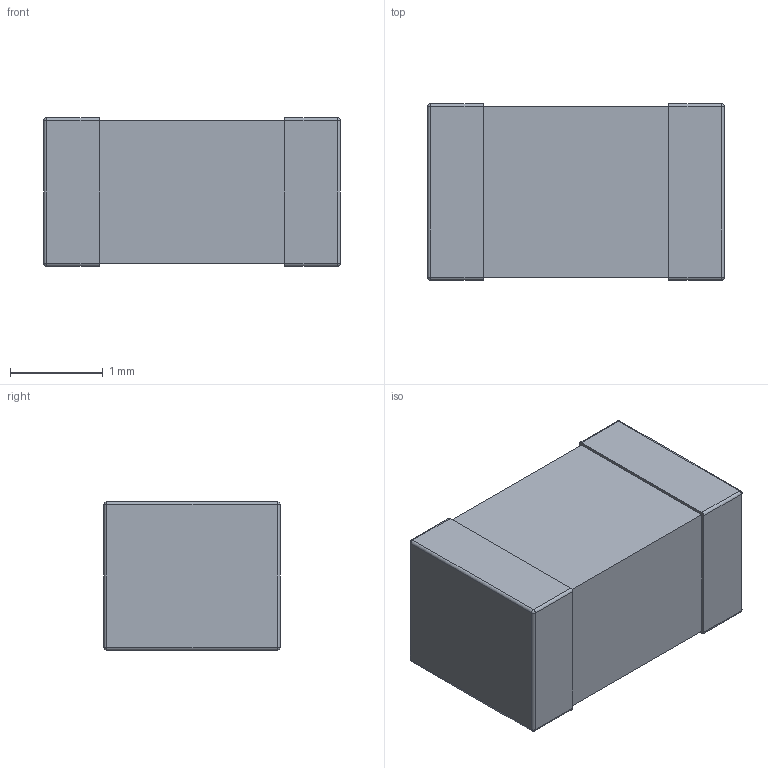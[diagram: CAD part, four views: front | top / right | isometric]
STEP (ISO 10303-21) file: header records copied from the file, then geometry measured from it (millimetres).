
FILE_DESCRIPTION (( 'STEP AP214' ), '1' );
FILE_NAME ('CC1206KKX5R8BB226.STEP', '2023-04-20T10:53:25', ( '' ), ( '' ), 'SwSTEP 2.0', 'SolidWorks 2021', '' );
FILE_SCHEMA (( 'AUTOMOTIVE_DESIGN' ));
Length unit declared in the file: millimetre
Products named in the file (1): CC1206KKX5R8BB226
Bounding box: 3.2 x 1.9 x 1.6 mm (x, y, z)
Volume: 9.3 mm3; surface area: 39.5 mm2
Topology: 3 solids, 3 shells, 42 faces, 92 edges, 48 vertices
Faces by surface type: plane 18, cylinder 16, sphere 8
Entity records: 1120 total; most frequent: DIRECTION 202, CARTESIAN_POINT 175, ORIENTED_EDGE 168, EDGE_CURVE 84, AXIS2_PLACEMENT_3D 75, VECTOR 52, LINE 52, VERTEX_POINT 48
